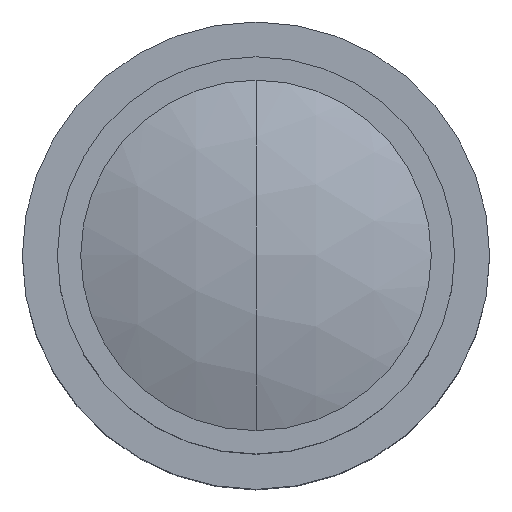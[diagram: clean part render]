
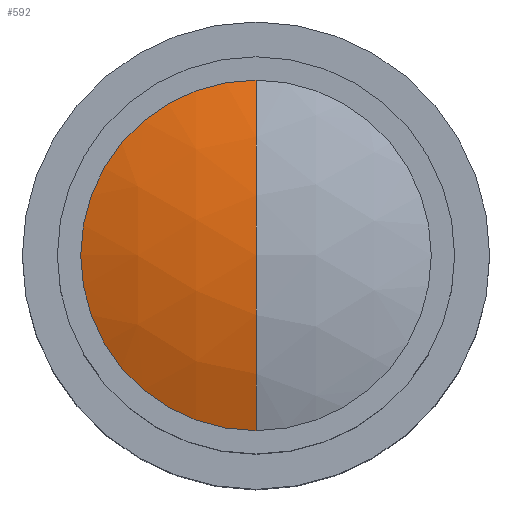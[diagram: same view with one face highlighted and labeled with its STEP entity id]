
A CAD part, top view. The second image highlights one B-rep face of the part: STEP entity #592.
In plain terms, the highlighted spherical face has radius 12 mm.
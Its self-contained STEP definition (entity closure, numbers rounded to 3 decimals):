
#34 = VERTEX_POINT ( 'NONE', #144 ) ;
#35 = VERTEX_POINT ( 'NONE', #143 ) ;
#38 = EDGE_CURVE ( 'NONE', #35, #49, #124, .T. ) ;
#49 = VERTEX_POINT ( 'NONE', #176 ) ;
#51 = EDGE_CURVE ( 'NONE', #34, #49, #180, .T. ) ;
#121 = DIRECTION ( 'NONE',  ( 0., 1., 0. ) ) ;
#122 = DIRECTION ( 'NONE',  ( 1., 0., 0. ) ) ;
#123 = AXIS2_PLACEMENT_3D ( 'NONE', #142, #122, #121 ) ;
#124 = CIRCLE ( 'NONE', #123, 12. ) ;
#142 = CARTESIAN_POINT ( 'NONE',  ( 0., 0., -6.8 ) ) ;
#143 = CARTESIAN_POINT ( 'NONE',  ( 0., 4.5, 4.324 ) ) ;
#144 = CARTESIAN_POINT ( 'NONE',  ( 0., -4.5, 4.324 ) ) ;
#159 = CARTESIAN_POINT ( 'NONE',  ( 0., 0., -6.8 ) ) ;
#176 = CARTESIAN_POINT ( 'NONE',  ( 0., 0., 5.2 ) ) ;
#177 = DIRECTION ( 'NONE',  ( 0., 0., 1. ) ) ;
#178 = DIRECTION ( 'NONE',  ( -1., 0., 0. ) ) ;
#179 = AXIS2_PLACEMENT_3D ( 'NONE', #159, #178, #177 ) ;
#180 = CIRCLE ( 'NONE', #179, 12. ) ;
#262 = DIRECTION ( 'NONE',  ( 0., -1., 0. ) ) ;
#263 = DIRECTION ( 'NONE',  ( 1., 0., 0. ) ) ;
#264 = CARTESIAN_POINT ( 'NONE',  ( 0., 0., -6.8 ) ) ;
#265 = AXIS2_PLACEMENT_3D ( 'NONE', #264, #263, #262 ) ;
#267 = SPHERICAL_SURFACE ( 'NONE', #265, 12. ) ;
#268 = FACE_OUTER_BOUND ( 'NONE', #586, .T. ) ;
#377 = DIRECTION ( 'NONE',  ( 1., 0., 0. ) ) ;
#378 = DIRECTION ( 'NONE',  ( 0., 0., 1. ) ) ;
#379 = CARTESIAN_POINT ( 'NONE',  ( 0., 0., 4.324 ) ) ;
#380 = AXIS2_PLACEMENT_3D ( 'NONE', #379, #378, #377 ) ;
#381 = CIRCLE ( 'NONE', #380, 4.5 ) ;
#533 = EDGE_CURVE ( 'NONE', #35, #34, #381, .T. ) ;
#585 = ORIENTED_EDGE ( 'NONE', *, *, #38, .F. ) ;
#586 = EDGE_LOOP ( 'NONE', ( #585, #593, #594 ) ) ;
#592 = ADVANCED_FACE ( 'NONE', ( #268 ), #267, .T. ) ;
#593 = ORIENTED_EDGE ( 'NONE', *, *, #533, .T. ) ;
#594 = ORIENTED_EDGE ( 'NONE', *, *, #51, .T. ) ;
